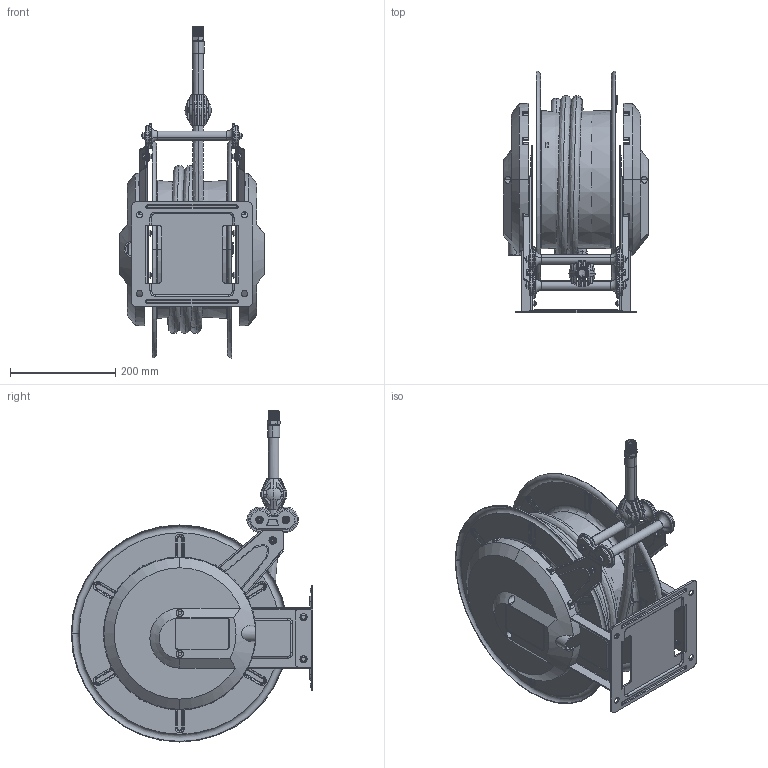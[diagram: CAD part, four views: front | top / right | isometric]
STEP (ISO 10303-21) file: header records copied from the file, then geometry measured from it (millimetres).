
FILE_DESCRIPTION (( 'STEP AP214' ), '1' );
FILE_NAME ('V-VL.STEP', '2015-02-13T16:48:13', ( 'utente' ), ( '' ), 'SwSTEP 2.0', 'SolidWorks 2014', '' );
FILE_SCHEMA (( 'AUTOMOTIVE_DESIGN' ));
Length unit declared in the file: millimetre
Products named in the file (2): V-VL
Bounding box: 276 x 459.5 x 631.62 mm (x, y, z)
Surface area: 1501872.8 mm2 (no closed solid volume)
Topology: 0 solids, 81 shells, 1436 faces, 4963 edges, 3483 vertices
Faces by surface type: plane 421, torus 330, cone 290, cylinder 274, bspline 106, sphere 15
Entity records: 85545 total; most frequent: CARTESIAN_POINT 28008, DIRECTION 8904, ORIENTED_EDGE 8160, EDGE_CURVE 4954, AXIS2_PLACEMENT_3D 3733, VERTEX_POINT 3479, CIRCLE 2401, EDGE_LOOP 1618
